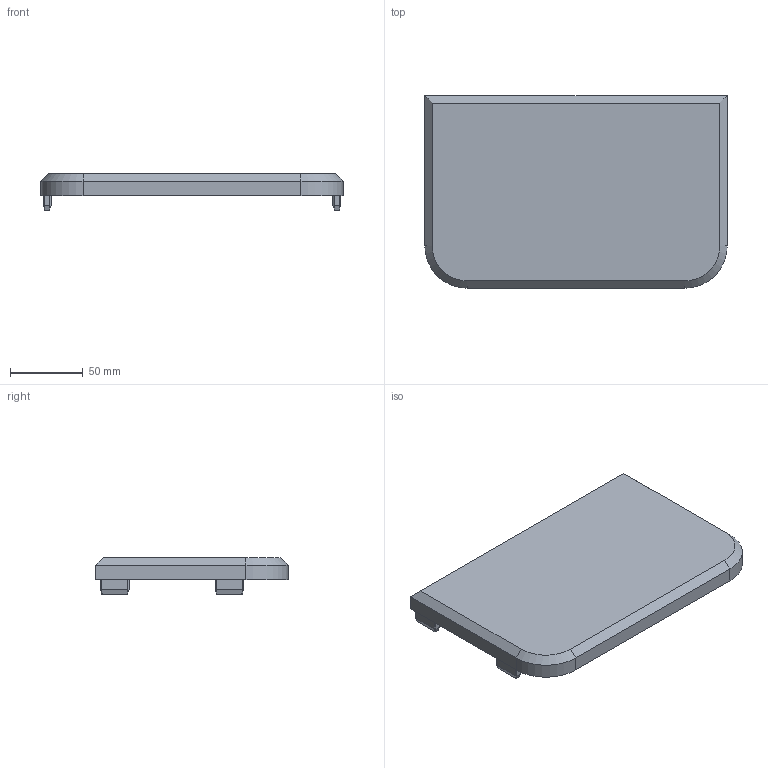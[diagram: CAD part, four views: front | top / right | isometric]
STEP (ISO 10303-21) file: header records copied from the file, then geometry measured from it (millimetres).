
FILE_DESCRIPTION(/* description */ (''),/* implementation_level */ '2;1');
FILE_NAME(/* name */ 'StackDrawerBox2-top.step',/* time_stamp */ '2024-06-28T22:44:43+02:00',/* author */ (''),/* organization */ (''),/* preprocessor_version */ 'ST-DEVELOPER v20',/* originating_system */ 'Autodesk Translation Framework v13.14.0.145',/* authorisation */ '');
FILE_SCHEMA (('AUTOMOTIVE_DESIGN { 1 0 10303 214 3 1 1 }'));
Length unit declared in the file: millimetre
Products named in the file (2): StackDrawerBox2-base2; Component4
Assembly tree (1 placements, depth 2):
  StackDrawerBox2-base2
    Component4
Bounding box: 208 x 132.3 x 25 mm (x, y, z)
Volume: 73073 mm3; surface area: 71556.6 mm2
Topology: 1 solids, 1 shells, 95 faces, 224 edges, 136 vertices
Faces by surface type: plane 87, cone 4, cylinder 4
Entity records: 2690 total; most frequent: CARTESIAN_POINT 458, ORIENTED_EDGE 448, DIRECTION 432, EDGE_CURVE 224, LINE 212, VECTOR 212, VERTEX_POINT 136, AXIS2_PLACEMENT_3D 110
